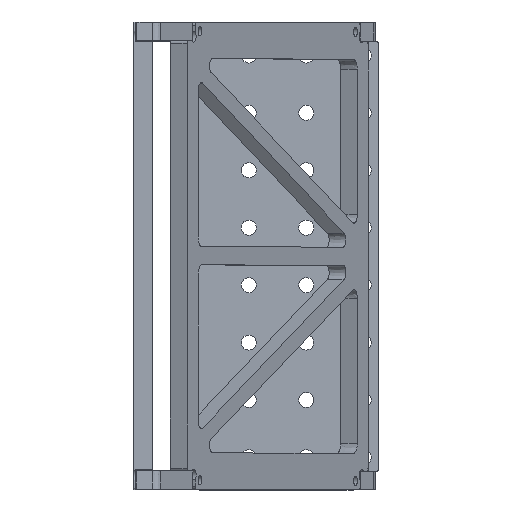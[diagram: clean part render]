
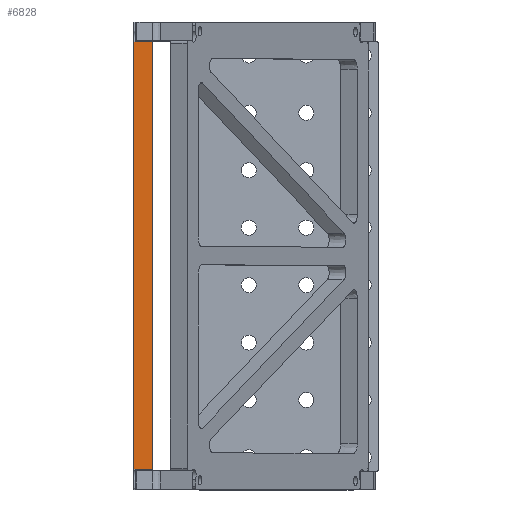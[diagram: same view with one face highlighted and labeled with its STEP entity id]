
A CAD part, top view. The second image highlights one B-rep face of the part: STEP entity #6828.
In plain terms, the highlighted planar face has unit normal (0, 0, 1).
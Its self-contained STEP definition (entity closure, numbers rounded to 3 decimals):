
#559=PLANE('',#7398);
#748=FACE_OUTER_BOUND('',#1258,.T.);
#1258=EDGE_LOOP('',(#5293,#5294,#5295,#5296));
#1657=LINE('',#10277,#2065);
#1706=LINE('',#10668,#2114);
#1717=LINE('',#10829,#2125);
#1722=LINE('',#10917,#2130);
#2065=VECTOR('',#8065,10.);
#2114=VECTOR('',#8370,10.);
#2125=VECTOR('',#8483,10.);
#2130=VECTOR('',#8570,10.);
#2923=VERTEX_POINT('',#10273);
#2925=VERTEX_POINT('',#10276);
#3019=VERTEX_POINT('',#10667);
#3082=VERTEX_POINT('',#10827);
#3651=EDGE_CURVE('',#2925,#2923,#1657,.T.);
#3797=EDGE_CURVE('',#3019,#2925,#1706,.T.);
#3865=EDGE_CURVE('',#3082,#2923,#1717,.T.);
#3909=EDGE_CURVE('',#3019,#3082,#1722,.T.);
#5293=ORIENTED_EDGE('',*,*,#3909,.F.);
#5294=ORIENTED_EDGE('',*,*,#3797,.T.);
#5295=ORIENTED_EDGE('',*,*,#3651,.T.);
#5296=ORIENTED_EDGE('',*,*,#3865,.F.);
#6828=ADVANCED_FACE('',(#748),#559,.T.);
#7398=AXIS2_PLACEMENT_3D('',#11012,#8588,#8589);
#8065=DIRECTION('',(1.,0.,0.));
#8370=DIRECTION('',(0.,-1.,0.));
#8483=DIRECTION('',(0.,-1.,0.));
#8570=DIRECTION('',(1.,0.,0.));
#8588=DIRECTION('center_axis',(0.,0.,1.));
#8589=DIRECTION('ref_axis',(-1.,0.,0.));
#10273=CARTESIAN_POINT('',(6.35,-149.5,185.));
#10276=CARTESIAN_POINT('',(0.,-149.5,185.));
#10277=CARTESIAN_POINT('',(4.763,-149.5,185.));
#10667=CARTESIAN_POINT('',(0.,-0.5,185.));
#10668=CARTESIAN_POINT('',(0.,0.,185.));
#10827=CARTESIAN_POINT('',(6.35,-0.5,185.));
#10829=CARTESIAN_POINT('',(6.35,0.,185.));
#10917=CARTESIAN_POINT('',(4.763,-0.5,185.));
#11012=CARTESIAN_POINT('Origin',(6.35,0.,185.));
